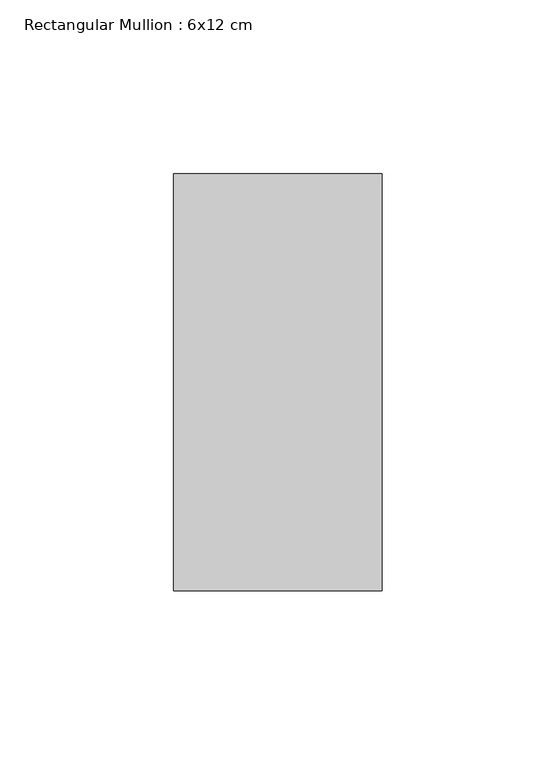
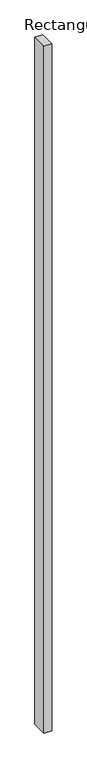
"""IFC4 building model written with IfcOpenShell, lengths in millimetres: member geometry, Rectangular Mullion : 6x12 cm."""

from ifc_helpers import new_model, si_unit, frame, origin, place, context, project, spatial, polyline, outline, extrude, source, transform, mapped, element, save


def rectangular_mullion_6x12_cm_e7465350(model_context):
    return source(origin(), model_context, "Body", "SweptSolid", [
        extrude(outline(polyline([(30.0, 205.0), (30.0, 85.0), (-30.0, 85.0), (-30.0, 205.0), (30.0, 205.0)])), frame((0.0, 0.0, -5569.6135265), z_axis=(0.0, 0.0, 1.0), x_axis=(1.0, 0.0, 0.0)), (0.0, 0.0, 1.0), 5569.6135265),
    ])


if __name__ == "__main__":
    model = new_model("IFC4")
    model_context = context("Model", 3, world=origin())
    ifc_project = project(units=[si_unit("LENGTHUNIT", "METRE", prefix="MILLI")], contexts=[model_context])
    site = spatial("IfcSite", under=ifc_project)
    building = spatial("IfcBuilding", under=site)
    placement = place(None, origin())
    rectangular_mullion_6x12_cm_shape = rectangular_mullion_6x12_cm_e7465350(model_context)
    element("IfcMember", 1, ObjectType="Rectangular Mullion : 6x12 cm", at=placement, inside=building, context=model_context, shape_type="MappedRepresentation", body=[
        mapped(rectangular_mullion_6x12_cm_shape, transform((0.0, 0.0, 0.0), x_axis=(1.0, 0.0, 0.0), y_axis=(0.0, 1.0, 0.0), z_axis=(0.0, 0.0, 1.0))),
    ])
    save(model, "model.ifc")
